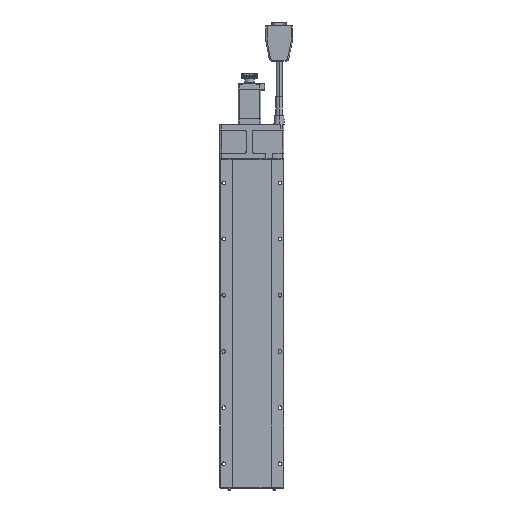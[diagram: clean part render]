
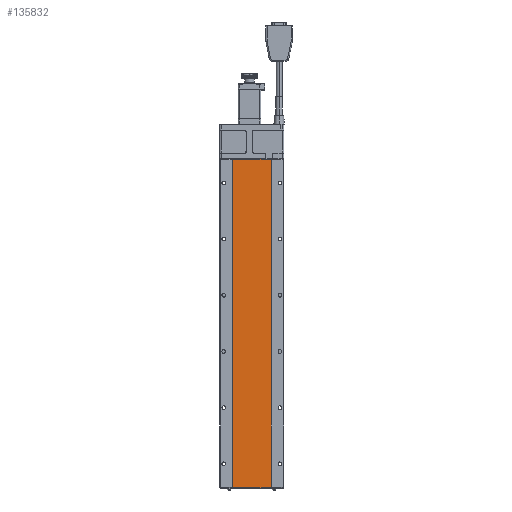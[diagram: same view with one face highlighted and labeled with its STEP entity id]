
A CAD part, front view. The second image highlights one B-rep face of the part: STEP entity #135832.
In plain terms, the highlighted planar face has unit normal (0, -1, 0).
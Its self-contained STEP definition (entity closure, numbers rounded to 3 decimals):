
#10566 = VERTEX_POINT ( 'NONE', #87066 ) ;
#13471 = PLANE ( 'NONE',  #97018 ) ;
#15652 = VERTEX_POINT ( 'NONE', #39693 ) ;
#17270 = VECTOR ( 'NONE', #142433, 1000. ) ;
#23148 = LINE ( 'NONE', #144145, #33994 ) ;
#23232 = CARTESIAN_POINT ( 'NONE',  ( -24.3, 0.5, 409.8 ) ) ;
#30131 = VERTEX_POINT ( 'NONE', #23232 ) ;
#33994 = VECTOR ( 'NONE', #70716, 1000. ) ;
#39693 = CARTESIAN_POINT ( 'NONE',  ( -24.3, 0.5, 0.2 ) ) ;
#40258 = LINE ( 'NONE', #87095, #86991 ) ;
#42193 = DIRECTION ( 'NONE',  ( 0., 0., -1. ) ) ;
#42240 = ORIENTED_EDGE ( 'NONE', *, *, #122677, .T. ) ;
#44772 = CARTESIAN_POINT ( 'NONE',  ( -24.3, 0.5, 0.2 ) ) ;
#45597 = ORIENTED_EDGE ( 'NONE', *, *, #136639, .T. ) ;
#49739 = CARTESIAN_POINT ( 'NONE',  ( -24.3, 0.5, 409.8 ) ) ;
#61042 = DIRECTION ( 'NONE',  ( 0., 1., 0. ) ) ;
#67474 = ORIENTED_EDGE ( 'NONE', *, *, #118979, .T. ) ;
#70716 = DIRECTION ( 'NONE',  ( -1., 0., 0. ) ) ;
#78500 = LINE ( 'NONE', #128492, #139102 ) ;
#86991 = VECTOR ( 'NONE', #100764, 1000. ) ;
#87066 = CARTESIAN_POINT ( 'NONE',  ( 24.3, 0.5, 409.8 ) ) ;
#87095 = CARTESIAN_POINT ( 'NONE',  ( 24.3, 0.5, 0.2 ) ) ;
#93597 = VERTEX_POINT ( 'NONE', #119478 ) ;
#97018 = AXIS2_PLACEMENT_3D ( 'NONE', #49739, #61042, #98992 ) ;
#98992 = DIRECTION ( 'NONE',  ( -1., 0., 0. ) ) ;
#100764 = DIRECTION ( 'NONE',  ( 0., 0., 1. ) ) ;
#104509 = LINE ( 'NONE', #44772, #17270 ) ;
#118979 = EDGE_CURVE ( 'NONE', #10566, #30131, #23148, .T. ) ;
#119478 = CARTESIAN_POINT ( 'NONE',  ( 24.3, 0.5, 0.2 ) ) ;
#122677 = EDGE_CURVE ( 'NONE', #15652, #93597, #104509, .T. ) ;
#125347 = EDGE_CURVE ( 'NONE', #30131, #15652, #78500, .T. ) ;
#128492 = CARTESIAN_POINT ( 'NONE',  ( -24.3, 0.5, 0.2 ) ) ;
#134508 = FACE_OUTER_BOUND ( 'NONE', #135718, .T. ) ;
#135718 = EDGE_LOOP ( 'NONE', ( #155624, #42240, #45597, #67474 ) ) ;
#135832 = ADVANCED_FACE ( 'NONE', ( #134508 ), #13471, .F. ) ;
#136639 = EDGE_CURVE ( 'NONE', #93597, #10566, #40258, .T. ) ;
#139102 = VECTOR ( 'NONE', #42193, 1000. ) ;
#142433 = DIRECTION ( 'NONE',  ( 1., 0., 0. ) ) ;
#144145 = CARTESIAN_POINT ( 'NONE',  ( -24.3, 0.5, 409.8 ) ) ;
#155624 = ORIENTED_EDGE ( 'NONE', *, *, #125347, .T. ) ;
